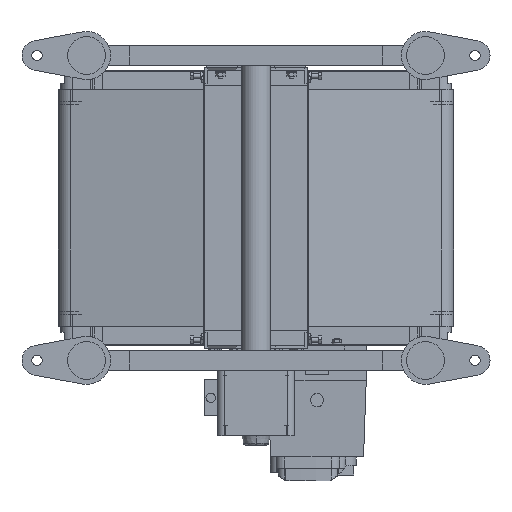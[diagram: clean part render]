
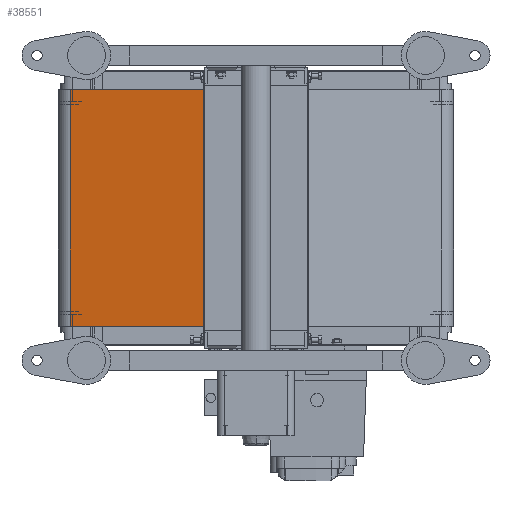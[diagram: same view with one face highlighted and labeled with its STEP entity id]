
A CAD part, front view. The second image highlights one B-rep face of the part: STEP entity #38551.
In plain terms, the highlighted planar face has unit normal (-0.176, -0.984, 0).
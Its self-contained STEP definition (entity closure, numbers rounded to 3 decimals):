
#666 = EDGE_CURVE ( 'NONE', #56164, #4711, #7944, .T. ) ;
#3200 = LINE ( 'NONE', #78121, #75627 ) ;
#4711 = VERTEX_POINT ( 'NONE', #7216 ) ;
#5182 = EDGE_LOOP ( 'NONE', ( #68819, #41386, #61854, #14660 ) ) ;
#7216 = CARTESIAN_POINT ( 'NONE',  ( 217.987, -70.264, -150. ) ) ;
#7944 = LINE ( 'NONE', #78913, #39216 ) ;
#8447 = DIRECTION ( 'NONE',  ( 0., 0., -1. ) ) ;
#11551 = CARTESIAN_POINT ( 'NONE',  ( 14.409, -33.936, 150. ) ) ;
#13089 = VERTEX_POINT ( 'NONE', #77574 ) ;
#14660 = ORIENTED_EDGE ( 'NONE', *, *, #61667, .T. ) ;
#16599 = DIRECTION ( 'NONE',  ( 0.984, -0.176, 0. ) ) ;
#16759 = CARTESIAN_POINT ( 'NONE',  ( 14.409, -33.936, -150. ) ) ;
#18567 = AXIS2_PLACEMENT_3D ( 'NONE', #32613, #51155, #52221 ) ;
#25087 = LINE ( 'NONE', #51861, #27042 ) ;
#27042 = VECTOR ( 'NONE', #8447, 1000. ) ;
#30455 = DIRECTION ( 'NONE',  ( 0.984, -0.176, 0. ) ) ;
#32613 = CARTESIAN_POINT ( 'NONE',  ( 14.409, -33.936, 150. ) ) ;
#33593 = FACE_OUTER_BOUND ( 'NONE', #5182, .T. ) ;
#38551 = ADVANCED_FACE ( 'NONE', ( #33593 ), #62633, .F. ) ;
#39216 = VECTOR ( 'NONE', #74248, 1000. ) ;
#40330 = CARTESIAN_POINT ( 'NONE',  ( 217.987, -70.264, 150. ) ) ;
#41386 = ORIENTED_EDGE ( 'NONE', *, *, #666, .F. ) ;
#42303 = VECTOR ( 'NONE', #30455, 1000. ) ;
#51155 = DIRECTION ( 'NONE',  ( 0.176, 0.984, 0. ) ) ;
#51861 = CARTESIAN_POINT ( 'NONE',  ( 14.409, -33.936, 150. ) ) ;
#52221 = DIRECTION ( 'NONE',  ( -0.984, 0.176, 0. ) ) ;
#54971 = LINE ( 'NONE', #11551, #42303 ) ;
#56164 = VERTEX_POINT ( 'NONE', #40330 ) ;
#61667 = EDGE_CURVE ( 'NONE', #13089, #66354, #25087, .T. ) ;
#61854 = ORIENTED_EDGE ( 'NONE', *, *, #79613, .F. ) ;
#62633 = PLANE ( 'NONE',  #18567 ) ;
#66354 = VERTEX_POINT ( 'NONE', #16759 ) ;
#68819 = ORIENTED_EDGE ( 'NONE', *, *, #71639, .T. ) ;
#71639 = EDGE_CURVE ( 'NONE', #66354, #4711, #3200, .T. ) ;
#74248 = DIRECTION ( 'NONE',  ( 0., 0., -1. ) ) ;
#75627 = VECTOR ( 'NONE', #16599, 1000. ) ;
#77574 = CARTESIAN_POINT ( 'NONE',  ( 14.409, -33.936, 150. ) ) ;
#78121 = CARTESIAN_POINT ( 'NONE',  ( 14.409, -33.936, -150. ) ) ;
#78913 = CARTESIAN_POINT ( 'NONE',  ( 217.987, -70.264, 150. ) ) ;
#79613 = EDGE_CURVE ( 'NONE', #13089, #56164, #54971, .T. ) ;
